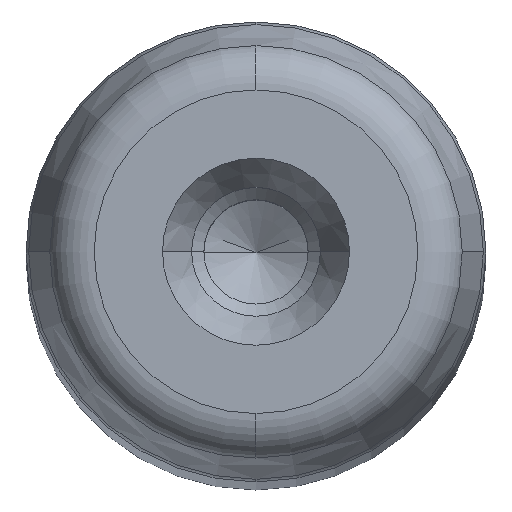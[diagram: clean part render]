
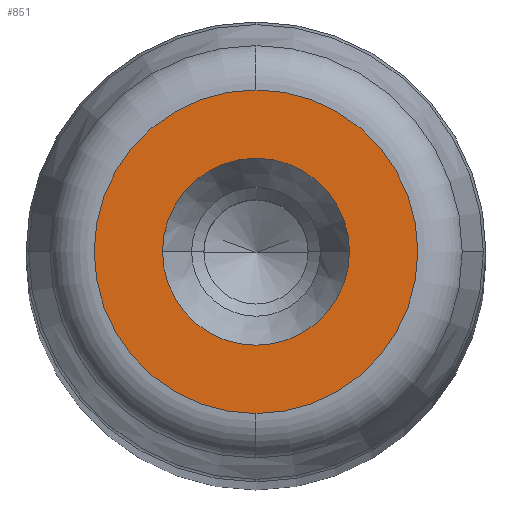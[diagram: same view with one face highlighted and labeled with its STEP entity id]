
A CAD part, top view. The second image highlights one B-rep face of the part: STEP entity #851.
In plain terms, the highlighted planar face has unit normal (0, 0, 1) as drawn and (0, 1, 0) by its records, which use the part's own axes.
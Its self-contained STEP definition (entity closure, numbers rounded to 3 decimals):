
#281=CARTESIAN_POINT('',(6.1,315.0,0.0));
#282=VERTEX_POINT('',#281);
#289=CARTESIAN_POINT('',(-6.1,315.0,0.));
#290=VERTEX_POINT('',#289);
#291=CARTESIAN_POINT('',(0.0,315.0,0.0));
#292=DIRECTION('',(0.0,1.0,0.0));
#293=DIRECTION('',(1.0,0.0,0.0));
#294=AXIS2_PLACEMENT_3D('',#291,#292,#293);
#295=CIRCLE('',#294,6.1);
#296=EDGE_CURVE('',#282,#290,#295,.T.);
#313=CARTESIAN_POINT('',(0.0,315.0,10.554));
#314=VERTEX_POINT('',#313);
#324=CARTESIAN_POINT('',(0.,315.0,-10.554));
#325=VERTEX_POINT('',#324);
#326=CARTESIAN_POINT('',(0.0,315.0,0.0));
#327=DIRECTION('',(0.0,1.0,0.0));
#328=DIRECTION('',(1.0,0.0,0.0));
#329=AXIS2_PLACEMENT_3D('',#326,#327,#328);
#330=CIRCLE('',#329,10.554);
#331=EDGE_CURVE('',#325,#314,#330,.T.);
#812=CARTESIAN_POINT('',(10.554,315.0,0.0));
#813=VERTEX_POINT('',#812);
#814=CARTESIAN_POINT('',(0.0,315.0,0.0));
#815=DIRECTION('',(0.0,1.0,0.0));
#816=DIRECTION('',(1.0,0.0,0.0));
#817=AXIS2_PLACEMENT_3D('',#814,#815,#816);
#818=CIRCLE('',#817,10.554);
#819=EDGE_CURVE('',#813,#325,#818,.T.);
#821=CARTESIAN_POINT('',(0.0,315.0,0.0));
#822=DIRECTION('',(0.0,1.0,0.0));
#823=DIRECTION('',(1.0,0.0,0.0));
#824=AXIS2_PLACEMENT_3D('',#821,#822,#823);
#825=CIRCLE('',#824,10.554);
#826=EDGE_CURVE('',#314,#813,#825,.T.);
#831=CARTESIAN_POINT('',(-11.61,315.0,-11.61));
#832=DIRECTION('',(0.0,1.0,0.0));
#833=DIRECTION('',(0.0,0.0,1.0));
#834=AXIS2_PLACEMENT_3D('',#831,#832,#833);
#835=PLANE('',#834);
#836=ORIENTED_EDGE('',*,*,#819,.T.);
#837=ORIENTED_EDGE('',*,*,#331,.T.);
#838=ORIENTED_EDGE('',*,*,#826,.T.);
#839=EDGE_LOOP('',(#836,#837,#838));
#840=FACE_OUTER_BOUND('',#839,.T.);
#841=ORIENTED_EDGE('',*,*,#296,.F.);
#842=CARTESIAN_POINT('',(0.0,315.0,0.0));
#843=DIRECTION('',(0.0,1.0,0.0));
#844=DIRECTION('',(1.0,0.0,0.0));
#845=AXIS2_PLACEMENT_3D('',#842,#843,#844);
#846=CIRCLE('',#845,6.1);
#847=EDGE_CURVE('',#290,#282,#846,.T.);
#848=ORIENTED_EDGE('',*,*,#847,.F.);
#849=EDGE_LOOP('',(#841,#848));
#850=FACE_BOUND('',#849,.T.);
#851=ADVANCED_FACE('',(#840,#850),#835,.T.);
